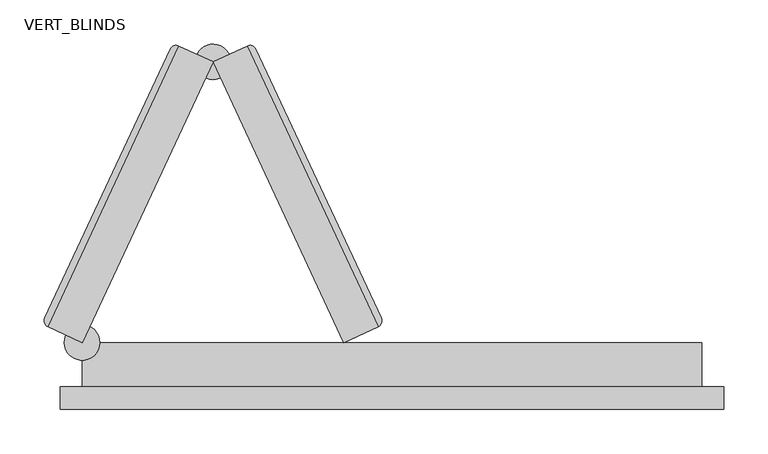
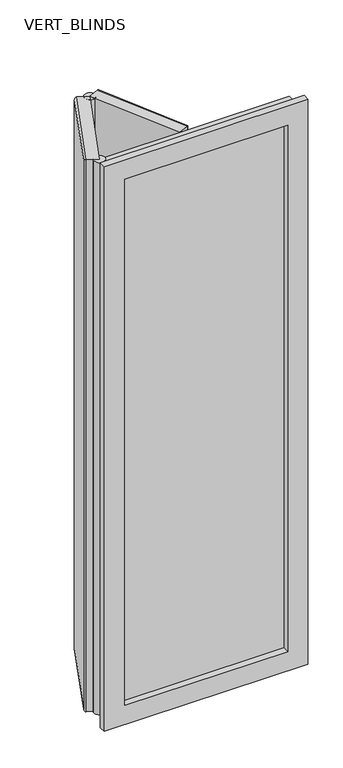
"""IFC4 building model written with IfcOpenShell, lengths in millimetres: plate geometry, CURTAIN PANEL VODA STYLE BIFOLDING : VERT_BLINDS."""

from ifc_helpers import new_model, si_unit, point, frame, frame_2d, origin, place, context, project, spatial, polyline, circle_curve, ellipse_curve, trimmed, segment, composite_curve, outline, extrude, faceted_brep, source, transform, mapped, element, save
from ifc_brep_helpers import plane_surface, cylinder_surface, advanced_brep


def vert_blinds_ff0d8fd8(model_context):
    return source(origin(), model_context, "Body", "SolidModel", [
        advanced_brep(
        [(-350.0, 50.0, 2175.0), (-202.0836084, 367.2077255, 2175.0), (-240.6016893, 385.1690016, 2175.0), (-388.5180809, 67.9612761, 2175.0), (-202.0836084, 367.2077255, 25.0), (-350.0, 50.0, 25.0), (-388.5180809, 67.9612761, 25.0), (-240.6016893, 385.1690016, 25.0), (-392.1457524, 77.9282215, 32.5), (-392.1457524, 77.9282215, 2167.5), (-250.5686347, 381.5413301, 2167.5), (-250.5686347, 381.5413301, 32.5)],
        [
            (0, 1),
            (1, 2),
            (2, 3),
            (3, 0),
            (4, 5),
            (5, 6),
            (6, 7),
            (7, 4),
            (1, 4),
            (7, 2),
            (8, 9),
            (9, 10),
            (10, 11),
            (11, 8),
            (5, 0),
            (3, 6),
            (8, 6, ellipse_curve(frame((-385.348444, 74.7585845, 32.5), z_axis=(-0.29883623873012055, -0.6408563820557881, 0.7071067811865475), x_axis=(-0.29883623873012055, -0.640856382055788, -0.7071067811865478)), 10.6066017, 7.5)),
            (3, 9, ellipse_curve(frame((-385.348444, 74.7585845, 2167.5), z_axis=(-0.2988362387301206, -0.6408563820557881, -0.7071067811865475), x_axis=(0.29883623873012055, 0.640856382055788, -0.7071067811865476)), 10.6066017, 7.5)),
            (11, 7, ellipse_curve(frame((-243.7713263, 378.3716932, 32.5), z_axis=(-0.2988362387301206, -0.6408563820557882, -0.7071067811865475), x_axis=(0.2988362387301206, 0.6408563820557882, -0.7071067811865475)), 10.6066017, 7.5)),
            (10, 2, ellipse_curve(frame((-243.7713263, 378.3716932, 2167.5), z_axis=(0.2988362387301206, 0.6408563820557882, -0.7071067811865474), x_axis=(0.2988362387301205, 0.640856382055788, 0.7071067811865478)), 10.6066017, 7.5)),
        ],
        [
            plane_surface(frame((-247.3989977, 388.3386385, 2175.0), z_axis=(0.0, 0.0, 1.0), x_axis=(-0.9063077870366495, 0.4226182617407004, 0.0))),
            plane_surface(frame((-247.3989977, 388.3386385, 25.0), z_axis=(0.0, 0.0, -1.0), x_axis=(0.9063077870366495, -0.4226182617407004, 0.0))),
            plane_surface(frame((-202.0836084, 367.2077255, 2175.0), z_axis=(0.4226182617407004, 0.9063077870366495, 0.0), x_axis=(0.0, 0.0, -1.0))),
            plane_surface(frame((-247.3989977, 388.3386385, 2175.0), z_axis=(-0.9063077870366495, 0.42261826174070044, 0.0), x_axis=(0.0, 0.0, -1.0))),
            plane_surface(frame((-395.3153894, 71.1309131, 2175.0), z_axis=(-0.4226182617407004, -0.9063077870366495, 0.0), x_axis=(0.0, 0.0, -1.0))),
            plane_surface(frame((-350.0, 50.0, 2175.0), z_axis=(0.9063077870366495, -0.42261826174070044, 0.0), x_axis=(0.0, 0.0, -1.0))),
            cylinder_surface(frame((-385.348444, 74.7585845, 2175.0), z_axis=(0.0, 0.0, -1.0000000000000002), x_axis=(0.9063077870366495, -0.4226182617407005, 0.0)), 7.5),
            cylinder_surface(frame((-388.5180809, 67.9612761, 32.5), z_axis=(0.42261826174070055, 0.9063077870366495, 0.0), x_axis=(0.9063077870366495, -0.42261826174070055, 0.0)), 7.5),
            cylinder_surface(frame((-243.7713263, 378.3716932, 25.0), z_axis=(0.0, 0.0, 1.0000000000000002), x_axis=(0.9063077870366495, -0.4226182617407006, 0.0)), 7.5),
            cylinder_surface(frame((-240.6016893, 385.1690016, 2167.5), z_axis=(-0.42261826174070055, -0.9063077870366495, 0.0), x_axis=(0.9063077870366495, -0.42261826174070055, 0.0)), 7.5),
        ],
        [
            (0, [[1, 2, 3, 4]]),
            (1, [[5, 6, 7, 8]]),
            (2, [[9, -8, 10, -2]]),
            (3, [[11, 12, 13, 14]]),
            (4, [[15, -4, 16, -6]]),
            (5, [[-1, -15, -5, -9]]),
            (6, [[17, -16, 18, -11]]),
            (7, [[-17, -14, 19, -7]]),
            (8, [[-19, -13, 20, -10]]),
            (9, [[-18, -3, -20, -12]]),
        ],
    ),
        advanced_brep(
        [(-202.0836084, 367.2077255, 2175.0), (-54.1672168, 50.0, 2175.0), (-15.6491358, 67.9612761, 2175.0), (-163.5655274, 385.1690016, 2175.0), (-54.1672168, 50.0, 25.0), (-202.0836084, 367.2077255, 25.0), (-163.5655274, 385.1690016, 25.0), (-15.6491358, 67.9612761, 25.0), (-153.5985821, 381.5413301, 32.5), (-153.5985821, 381.5413301, 2167.5), (-12.0214644, 77.9282215, 2167.5), (-12.0214644, 77.9282215, 32.5)],
        [
            (0, 1),
            (1, 2),
            (2, 3),
            (3, 0),
            (4, 5),
            (5, 6),
            (6, 7),
            (7, 4),
            (1, 4),
            (7, 2),
            (8, 9),
            (9, 10),
            (10, 11),
            (11, 8),
            (5, 0),
            (3, 6),
            (8, 6, ellipse_curve(frame((-160.3958905, 378.3716932, 32.5), z_axis=(-0.29883623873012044, 0.6408563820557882, 0.7071067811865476), x_axis=(-0.29883623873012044, 0.6408563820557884, -0.7071067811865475)), 10.6066017, 7.5)),
            (3, 9, ellipse_curve(frame((-160.3958905, 378.3716932, 2167.5), z_axis=(-0.29883623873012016, 0.6408563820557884, -0.7071067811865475), x_axis=(0.29883623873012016, -0.6408563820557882, -0.7071067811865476)), 10.6066017, 7.5)),
            (11, 7, ellipse_curve(frame((-18.8187728, 74.7585845, 32.5), z_axis=(-0.29883623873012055, 0.6408563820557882, -0.7071067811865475), x_axis=(0.29883623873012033, -0.6408563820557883, -0.7071067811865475)), 10.6066017, 7.5)),
            (10, 2, ellipse_curve(frame((-18.8187728, 74.7585845, 2167.5), z_axis=(0.2988362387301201, -0.6408563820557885, -0.7071067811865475), x_axis=(0.2988362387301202, -0.6408563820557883, 0.7071067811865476)), 10.6066017, 7.5)),
        ],
        [
            plane_surface(frame((-8.8518274, 71.1309131, 2175.0), z_axis=(0.0, 0.0, 1.0000000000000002), x_axis=(0.9063077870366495, 0.4226182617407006, 0.0))),
            plane_surface(frame((-8.8518274, 71.1309131, 25.0), z_axis=(0.0, 0.0, -1.0000000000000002), x_axis=(-0.9063077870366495, -0.4226182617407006, 0.0))),
            plane_surface(frame((-54.1672168, 50.0, 2175.0), z_axis=(0.4226182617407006, -0.9063077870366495, 0.0), x_axis=(0.0, 0.0, -1.0))),
            plane_surface(frame((-8.8518274, 71.1309131, 2175.0), z_axis=(0.9063077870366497, 0.42261826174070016, 0.0), x_axis=(0.0, 0.0, -1.0))),
            plane_surface(frame((-156.768219, 388.3386385, 2175.0), z_axis=(-0.4226182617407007, 0.9063077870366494, 0.0), x_axis=(0.0, 0.0, -1.0))),
            plane_surface(frame((-202.0836084, 367.2077255, 2175.0), z_axis=(-0.9063077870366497, -0.4226182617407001, 0.0), x_axis=(0.0, 0.0, -1.0))),
            cylinder_surface(frame((-160.3958905, 378.3716932, 2175.0), z_axis=(0.0, 0.0, -1.0), x_axis=(-0.9063077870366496, -0.42261826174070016, 0.0)), 7.5),
            cylinder_surface(frame((-163.5655274, 385.1690016, 32.5), z_axis=(0.42261826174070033, -0.9063077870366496, 0.0), x_axis=(-0.9063077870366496, -0.42261826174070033, 0.0)), 7.5),
            cylinder_surface(frame((-18.8187728, 74.7585845, 25.0), z_axis=(0.0, 0.0, 1.0000000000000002), x_axis=(-0.9063077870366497, -0.4226182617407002, 0.0)), 7.5),
            cylinder_surface(frame((-15.6491358, 67.9612761, 2167.5), z_axis=(-0.4226182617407, 0.9063077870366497, 0.0), x_axis=(-0.9063077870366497, -0.4226182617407, 0.0)), 7.5),
        ],
        [
            (0, [[1, 2, 3, 4]]),
            (1, [[5, 6, 7, 8]]),
            (2, [[9, -8, 10, -2]]),
            (3, [[11, 12, 13, 14]]),
            (4, [[15, -4, 16, -6]]),
            (5, [[-1, -15, -5, -9]]),
            (6, [[17, -16, 18, -11]]),
            (7, [[-17, -14, 19, -7]]),
            (8, [[-19, -13, 20, -10]]),
            (9, [[-18, -3, -20, -12]]),
        ],
    ),
        extrude(outline(composite_curve([segment(trimmed(circle_curve(frame_2d((-350.0, 50.0)), 20.0), [point((-370.0, 50.0))], [point((-330.0, 50.0))], False, "CARTESIAN"), True, "CONTINUOUS"), segment(trimmed(circle_curve(frame_2d((-350.0, 50.0)), 20.0), [point((-330.0, 50.0))], [point((-370.0, 50.0))], False, "CARTESIAN"), True, "CONTINUOUS")], self_intersect=False)), frame((0.0, 0.0, 25.0), z_axis=(0.0, 0.0, 1.0), x_axis=(1.0, 0.0, 0.0)), (0.0, 0.0, 1.0), 2150.0),
        extrude(outline(composite_curve([segment(trimmed(circle_curve(frame_2d((-202.0836084, 367.2077255)), 20.0), [point((-210.5359736, 349.0815697))], [point((-193.6312432, 385.3338812))], False, "CARTESIAN"), True, "CONTINUOUS"), segment(trimmed(circle_curve(frame_2d((-202.0836084, 367.2077255)), 20.0), [point((-193.6312432, 385.3338812))], [point((-210.5359736, 349.0815697))], False, "CARTESIAN"), True, "CONTINUOUS")], self_intersect=False)), frame((0.0, 0.0, 25.0), z_axis=(0.0, 0.0, 1.0), x_axis=(1.0, 0.0, 0.0)), (0.0, 0.0, 1.0), 2150.0),
        extrude(outline(polyline([(-300.0, 24.0), (300.0, 24.0), (300.0, 0.0), (-300.0, 0.0), (-300.0, 24.0)])), frame((0.0, 0.0, 75.0), z_axis=(0.0, 0.0, 1.0), x_axis=(1.0, 0.0, 0.0)), (0.0, 0.0, 1.0), 2050.0),
        faceted_brep([(-300.0, 50.0, 2125.0), (-300.0, -25.0, 2125.0), (-300.0, -25.0, 75.0), (-300.0, 50.0, 75.0), (-375.0, -25.0, 2200.0), (-375.0, 0.0, 2200.0), (-375.0, 0.0, 0.0), (-375.0, -25.0, 0.0), (-350.0, 0.0, 2175.0), (-350.0, 50.0, 2175.0), (-350.0, 50.0, 25.0), (-350.0, 0.0, 25.0), (300.0, -25.0, 75.0), (300.0, 50.0, 75.0), (375.0, 0.0, 0.0), (375.0, -25.0, 0.0), (350.0, 50.0, 25.0), (350.0, 0.0, 25.0), (300.0, -25.0, 2125.0), (300.0, 50.0, 2125.0), (375.0, 0.0, 2200.0), (375.0, -25.0, 2200.0), (350.0, 50.0, 2175.0), (350.0, 0.0, 2175.0)], [[[0, 1, 2, 3]], [[4, 5, 6, 7]], [[8, 9, 10, 11]], [[3, 2, 12, 13]], [[7, 6, 14, 15]], [[11, 10, 16, 17]], [[13, 12, 18, 19]], [[15, 14, 20, 21]], [[17, 16, 22, 23]], [[9, 22, 16, 10], [3, 13, 19, 0]], [[19, 18, 1, 0]], [[7, 15, 21, 4], [1, 18, 12, 2]], [[21, 20, 5, 4]], [[5, 20, 14, 6], [11, 17, 23, 8]], [[23, 22, 9, 8]]]),
    ])


if __name__ == "__main__":
    model = new_model("IFC4")
    model_context = context("Model", 3, world=origin())
    ifc_project = project(units=[si_unit("LENGTHUNIT", "METRE", prefix="MILLI")], contexts=[model_context])
    site = spatial("IfcSite", under=ifc_project)
    building = spatial("IfcBuilding", under=site)
    placement = place(None, origin())
    vert_blinds_shape = vert_blinds_ff0d8fd8(model_context)
    element("IfcPlate", 1, ObjectType="CURTAIN PANEL VODA STYLE BIFOLDING : VERT_BLINDS", at=placement, inside=building, context=model_context, shape_type="MappedRepresentation", body=[
        mapped(vert_blinds_shape, transform((0.0, 0.0, 0.0), x_axis=(1.0, 0.0, 0.0), y_axis=(0.0, 1.0, 0.0), z_axis=(0.0, 0.0, 1.0))),
    ])
    save(model, "model.ifc")
